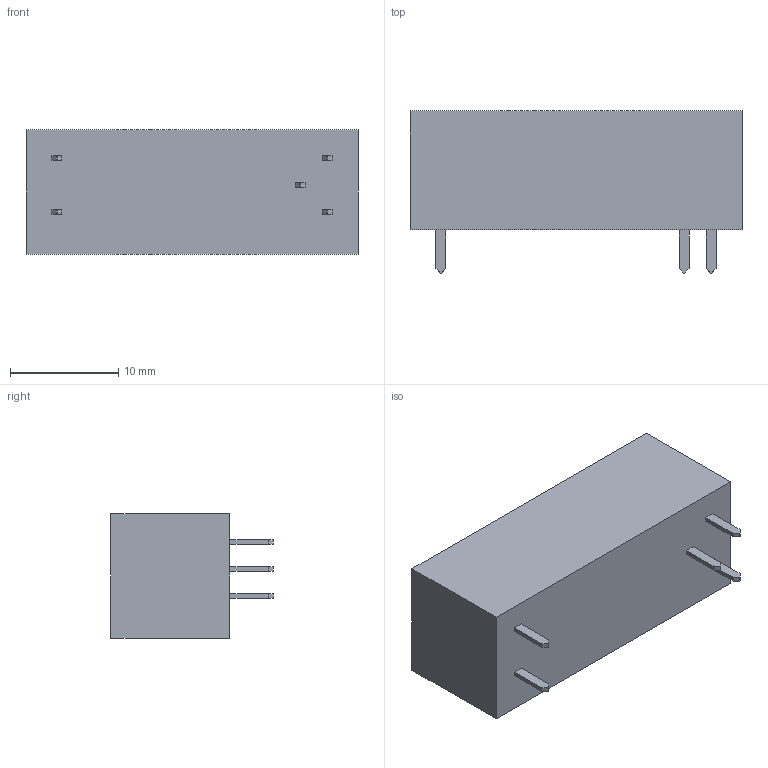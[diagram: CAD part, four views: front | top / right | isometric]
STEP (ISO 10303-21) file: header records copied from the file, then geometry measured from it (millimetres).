
FILE_DESCRIPTION (( 'STEP AP203' ), '1' );
FILE_NAME ('RD1RC4.STEP', '2019-09-12T16:49:02', ( '' ), ( '' ), 'SwSTEP 2.0', 'SolidWorks 2012', '' );
FILE_SCHEMA (( 'CONFIG_CONTROL_DESIGN' ));
Length unit declared in the file: millimetre
Products named in the file (1): RD1RC4
Bounding box: 30.7 x 15 x 11.5 mm (x, y, z)
Volume: 3890.4 mm3; surface area: 1684 mm2
Topology: 1 solids, 1 shells, 41 faces, 102 edges, 68 vertices
Faces by surface type: plane 41
Entity records: 1273 total; most frequent: CARTESIAN_POINT 212, ORIENTED_EDGE 204, DIRECTION 186, VECTOR 102, EDGE_CURVE 102, LINE 102, VERTEX_POINT 68, EDGE_LOOP 46
